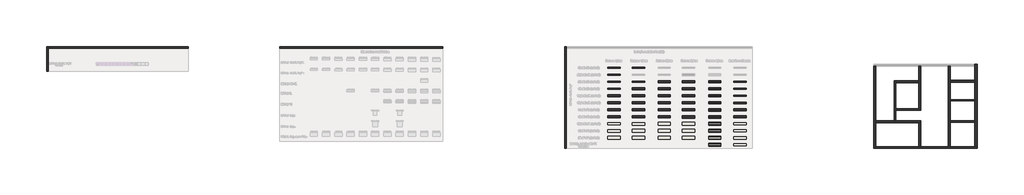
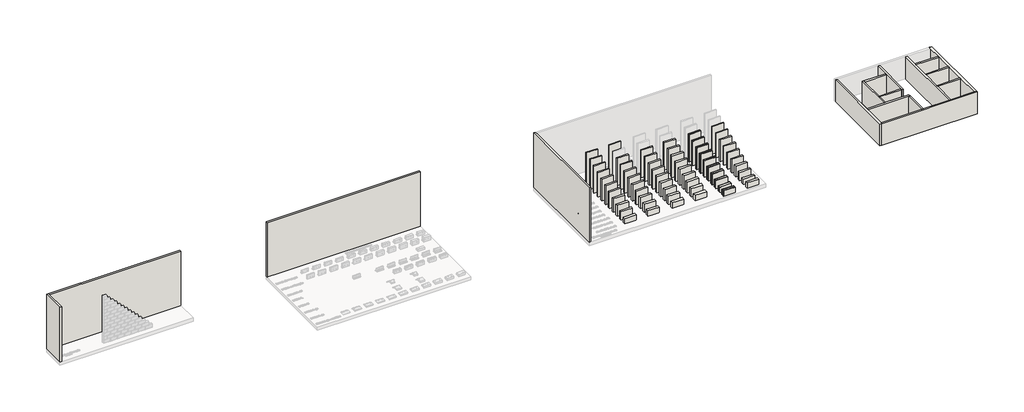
# One storey, part 1 of 26: 76 walls.
"""IFC4 building model written with IfcOpenShell, lengths in millimetres."""

from ifc_helpers import new_model, si_unit, origin, origin_with_axes, place, context, project, spatial, polyline, outline, extrude, faceted_brep, element, save

model = new_model("IFC4")

# Units and contexts
model_context = context("Model", 3, world=origin())
ifc_project = project(units=[si_unit("LENGTHUNIT", "METRE", prefix="MILLI")], contexts=[model_context])

# Site, building, storey
site = spatial("IfcSite", under=ifc_project)
building = spatial("IfcBuilding", under=site)
storey = spatial("IfcBuildingStorey", under=building, Name="Catálogo Celucon", Elevation=0.0)

# Walls
placement = place(None, origin())
element("IfcWall", 1, ObjectType="Módulo de Vedação - 05x30x60cm - Reboco 1,5cm", at=placement, inside=storey, context=model_context, shape_type="SweptSolid", body=[
    extrude(outline(polyline([(13468.4659396, 591.0427599), (12468.4659396, 591.0427599), (12468.4659396, 671.0427599), (13468.4659396, 671.0427599), (13468.4659396, 591.0427599)])), origin_with_axes(), (0.0, 0.0, 1.0), 3000.0),
])
element("IfcWall", 2, ObjectType="Módulo de Vedação - 05x30x60cm - Reboco 1,0cm", at=placement, inside=storey, context=model_context, shape_type="SweptSolid", body=[
    extrude(outline(polyline([(11465.662395, 24.6141885), (10465.662395, 24.6141885), (10465.662395, 94.6141885), (11465.662395, 94.6141885), (11465.662395, 24.6141885)])), origin_with_axes(), (0.0, 0.0, 1.0), 2750.0),
])
element("IfcWall", 3, ObjectType="Módulo de Vedação - 07,5x30x60cm - Reboco 1,0cm", at=placement, inside=storey, context=model_context, shape_type="SweptSolid", body=[
    extrude(outline(polyline([(11465.662395, -559.3143829), (10465.662395, -559.3143829), (10465.662395, -464.3143829), (11465.662395, -464.3143829), (11465.662395, -559.3143829)])), origin_with_axes(), (0.0, 0.0, 1.0), 2500.0),
])
element("IfcWall", 4, ObjectType="Módulo de Vedação - 09x30x60cm - Reboco 3,0cm", at=placement, inside=storey, context=model_context, shape_type="SweptSolid", body=[
    extrude(outline(polyline([(19689.4015231, -586.8143829), (18689.4015231, -586.8143829), (18689.4015231, -556.8143829), (19689.4015231, -556.8143829), (19689.4015231, -586.8143829)])), origin_with_axes(), (0.0, 0.0, 1.0), 2500.0),
    extrude(outline(polyline([(18689.4015231, -436.8143829), (19689.4015231, -436.8143829), (19689.4015231, -466.8143829), (18689.4015231, -466.8143829), (18689.4015231, -436.8143829)])), origin_with_axes(), (0.0, 0.0, 1.0), 2500.0),
    extrude(outline(polyline([(18689.4015231, -556.8143829), (18689.4015231, -466.8143829), (19689.4015231, -466.8143829), (19689.4015231, -556.8143829), (18689.4015231, -556.8143829)])), origin_with_axes(), (0.0, 0.0, 1.0), 2500.0),
])
element("IfcWall", 5, ObjectType="Módulo de Vedação - 09x30x60cm - Reboco 2,5cm", at=placement, inside=storey, context=model_context, shape_type="SweptSolid", body=[
    extrude(outline(polyline([(17549.4015231, -581.8143829), (16549.4015231, -581.8143829), (16549.4015231, -441.8143829), (17549.4015231, -441.8143829), (17549.4015231, -581.8143829)])), origin_with_axes(), (0.0, 0.0, 1.0), 2500.0),
])
element("IfcWall", 6, ObjectType="Módulo de Vedação - 09x30x60cm - Reboco 2,0cm", at=placement, inside=storey, context=model_context, shape_type="SweptSolid", body=[
    extrude(outline(polyline([(15571.203818, -576.8143829), (14571.203818, -576.8143829), (14571.203818, -446.8143829), (15571.203818, -446.8143829), (15571.203818, -576.8143829)])), origin_with_axes(), (0.0, 0.0, 1.0), 2500.0),
])
element("IfcWall", 7, ObjectType="Módulo de Vedação - 09x30x60cm - Reboco 1,5cm", at=placement, inside=storey, context=model_context, shape_type="SweptSolid", body=[
    extrude(outline(polyline([(13468.4659396, -571.8143829), (12468.4659396, -571.8143829), (12468.4659396, -451.8143829), (13468.4659396, -451.8143829), (13468.4659396, -571.8143829)])), origin_with_axes(), (0.0, 0.0, 1.0), 2500.0),
])
element("IfcWall", 8, ObjectType="Módulo de Vedação - 09x30x60cm - Reboco 1,0cm", at=placement, inside=storey, context=model_context, shape_type="SweptSolid", body=[
    extrude(outline(polyline([(11465.662395, -1138.2429544), (10465.662395, -1138.2429544), (10465.662395, -1028.2429544), (11465.662395, -1028.2429544), (11465.662395, -1138.2429544)])), origin_with_axes(), (0.0, 0.0, 1.0), 2250.0),
])
element("IfcWall", 9, ObjectType="Módulo de Vedação - 10x30x60cm - Reboco 3,0cm", at=placement, inside=storey, context=model_context, shape_type="SweptSolid", body=[
    extrude(outline(polyline([(19689.4015231, -1163.2429544), (18689.4015231, -1163.2429544), (18689.4015231, -1133.2429544), (19689.4015231, -1133.2429544), (19689.4015231, -1163.2429544)])), origin_with_axes(), (0.0, 0.0, 1.0), 2250.0),
    extrude(outline(polyline([(18689.4015231, -1003.2429544), (19689.4015231, -1003.2429544), (19689.4015231, -1033.2429544), (18689.4015231, -1033.2429544), (18689.4015231, -1003.2429544)])), origin_with_axes(), (0.0, 0.0, 1.0), 2250.0),
    extrude(outline(polyline([(18689.4015231, -1133.2429544), (18689.4015231, -1033.2429544), (19689.4015231, -1033.2429544), (19689.4015231, -1133.2429544), (18689.4015231, -1133.2429544)])), origin_with_axes(), (0.0, 0.0, 1.0), 2250.0),
])
element("IfcWall", 10, ObjectType="Módulo de Vedação - 10x30x60cm - Reboco 2,5cm", at=placement, inside=storey, context=model_context, shape_type="SweptSolid", body=[
    extrude(outline(polyline([(17549.4015231, -1158.2429544), (16549.4015231, -1158.2429544), (16549.4015231, -1008.2429544), (17549.4015231, -1008.2429544), (17549.4015231, -1158.2429544)])), origin_with_axes(), (0.0, 0.0, 1.0), 2250.0),
])
element("IfcWall", 11, ObjectType="Módulo de Vedação - 10x30x60cm - Reboco 2,0cm", at=placement, inside=storey, context=model_context, shape_type="SweptSolid", body=[
    extrude(outline(polyline([(15571.203818, -1153.2429544), (14571.203818, -1153.2429544), (14571.203818, -1013.2429544), (15571.203818, -1013.2429544), (15571.203818, -1153.2429544)])), origin_with_axes(), (0.0, 0.0, 1.0), 2250.0),
])
element("IfcWall", 12, ObjectType="Módulo de Vedação - 10x30x60cm - Reboco 1,5cm", at=placement, inside=storey, context=model_context, shape_type="SweptSolid", body=[
    extrude(outline(polyline([(13468.4659396, -1148.2429544), (12468.4659396, -1148.2429544), (12468.4659396, -1018.2429544), (13468.4659396, -1018.2429544), (13468.4659396, -1148.2429544)])), origin_with_axes(), (0.0, 0.0, 1.0), 2250.0),
])
element("IfcWall", 13, ObjectType="Módulo de Vedação - 05x30x60cm - Reboco 1,0cm", at=placement, inside=storey, context=model_context, shape_type="SweptSolid", body=[
    extrude(outline(polyline([(11465.662395, 596.0427599), (10465.662395, 596.0427599), (10465.662395, 666.0427599), (11465.662395, 666.0427599), (11465.662395, 596.0427599)])), origin_with_axes(), (0.0, 0.0, 1.0), 3000.0),
])
element("IfcWall", 14, ObjectType="Módulo de Vedação - 11,5x30x60cm - Reboco 3,0cm", at=placement, inside=storey, context=model_context, shape_type="SweptSolid", body=[
    extrude(outline(polyline([(19689.4015231, -1742.1715258), (18689.4015231, -1742.1715258), (18689.4015231, -1712.1715258), (19689.4015231, -1712.1715258), (19689.4015231, -1742.1715258)])), origin_with_axes(), (0.0, 0.0, 1.0), 2000.0),
    extrude(outline(polyline([(18689.4015231, -1567.1715258), (19689.4015231, -1567.1715258), (19689.4015231, -1597.1715258), (18689.4015231, -1597.1715258), (18689.4015231, -1567.1715258)])), origin_with_axes(), (0.0, 0.0, 1.0), 2000.0),
    extrude(outline(polyline([(18689.4015231, -1712.1715258), (18689.4015231, -1597.1715258), (19689.4015231, -1597.1715258), (19689.4015231, -1712.1715258), (18689.4015231, -1712.1715258)])), origin_with_axes(), (0.0, 0.0, 1.0), 2000.0),
])
element("IfcWall", 15, ObjectType="Módulo de Vedação - 11,5x30x60cm - Reboco 2,5cm", at=placement, inside=storey, context=model_context, shape_type="SweptSolid", body=[
    extrude(outline(polyline([(17549.4015231, -1737.1715258), (16549.4015231, -1737.1715258), (16549.4015231, -1572.1715258), (17549.4015231, -1572.1715258), (17549.4015231, -1737.1715258)])), origin_with_axes(), (0.0, 0.0, 1.0), 2000.0),
])
element("IfcWall", 16, ObjectType="Módulo de Vedação - 11,5x30x60cm - Reboco 2,0cm", at=placement, inside=storey, context=model_context, shape_type="SweptSolid", body=[
    extrude(outline(polyline([(15571.203818, -1732.1715258), (14571.203818, -1732.1715258), (14571.203818, -1577.1715258), (15571.203818, -1577.1715258), (15571.203818, -1732.1715258)])), origin_with_axes(), (0.0, 0.0, 1.0), 2000.0),
])
element("IfcWall", 17, ObjectType="Módulo de Vedação - 11,5x30x60cm - Reboco 1,5cm", at=placement, inside=storey, context=model_context, shape_type="SweptSolid", body=[
    extrude(outline(polyline([(13468.4659396, -1727.1715258), (12468.4659396, -1727.1715258), (12468.4659396, -1582.1715258), (13468.4659396, -1582.1715258), (13468.4659396, -1727.1715258)])), origin_with_axes(), (0.0, 0.0, 1.0), 2000.0),
])
element("IfcWall", 18, ObjectType="Módulo de Vedação - 11,5x30x60cm - Reboco 1,0cm", at=placement, inside=storey, context=model_context, shape_type="SweptSolid", body=[
    extrude(outline(polyline([(11465.662395, -1722.1715258), (10465.662395, -1722.1715258), (10465.662395, -1587.1715258), (11465.662395, -1587.1715258), (11465.662395, -1722.1715258)])), origin_with_axes(), (0.0, 0.0, 1.0), 2000.0),
])
element("IfcWall", 19, ObjectType="Módulo de Vedação - 12,5x30x60cm - Reboco 3,0cm", at=placement, inside=storey, context=model_context, shape_type="SweptSolid", body=[
    extrude(outline(polyline([(19689.4015231, -2318.6000972), (18689.4015231, -2318.6000972), (18689.4015231, -2288.6000972), (19689.4015231, -2288.6000972), (19689.4015231, -2318.6000972)])), origin_with_axes(), (0.0, 0.0, 1.0), 1750.0),
    extrude(outline(polyline([(18689.4015231, -2133.6000972), (19689.4015231, -2133.6000972), (19689.4015231, -2163.6000972), (18689.4015231, -2163.6000972), (18689.4015231, -2133.6000972)])), origin_with_axes(), (0.0, 0.0, 1.0), 1750.0),
    extrude(outline(polyline([(18689.4015231, -2288.6000972), (18689.4015231, -2163.6000972), (19689.4015231, -2163.6000972), (19689.4015231, -2288.6000972), (18689.4015231, -2288.6000972)])), origin_with_axes(), (0.0, 0.0, 1.0), 1750.0),
])
element("IfcWall", 20, ObjectType="Módulo de Vedação - 12,5x30x60cm - Reboco 2,5cm", at=placement, inside=storey, context=model_context, shape_type="SweptSolid", body=[
    extrude(outline(polyline([(17549.4015231, -2313.6000972), (16549.4015231, -2313.6000972), (16549.4015231, -2138.6000972), (17549.4015231, -2138.6000972), (17549.4015231, -2313.6000972)])), origin_with_axes(), (0.0, 0.0, 1.0), 1750.0),
])
element("IfcWall", 21, ObjectType="Módulo de Vedação - 12,5x30x60cm - Reboco 2,0cm", at=placement, inside=storey, context=model_context, shape_type="SweptSolid", body=[
    extrude(outline(polyline([(15571.203818, -2308.6000972), (14571.203818, -2308.6000972), (14571.203818, -2143.6000972), (15571.203818, -2143.6000972), (15571.203818, -2308.6000972)])), origin_with_axes(), (0.0, 0.0, 1.0), 1750.0),
])
element("IfcWall", 22, ObjectType="Módulo de Vedação - 12,5x30x60cm - Reboco 1,5cm", at=placement, inside=storey, context=model_context, shape_type="SweptSolid", body=[
    extrude(outline(polyline([(13468.4659396, -2303.6000972), (12468.4659396, -2303.6000972), (12468.4659396, -2148.6000972), (13468.4659396, -2148.6000972), (13468.4659396, -2303.6000972)])), origin_with_axes(), (0.0, 0.0, 1.0), 1750.0),
])
element("IfcWall", 23, ObjectType="Módulo de Vedação - 12,5x30x60cm - Reboco 1,0cm", at=placement, inside=storey, context=model_context, shape_type="SweptSolid", body=[
    extrude(outline(polyline([(11465.662395, -2298.6000972), (10465.662395, -2298.6000972), (10465.662395, -2153.6000972), (11465.662395, -2153.6000972), (11465.662395, -2298.6000972)])), origin_with_axes(), (0.0, 0.0, 1.0), 1750.0),
])
element("IfcWall", 24, ObjectType="Módulo de Vedação - 14x30x60cm - Reboco 3,0cm", at=placement, inside=storey, context=model_context, shape_type="SweptSolid", body=[
    extrude(outline(polyline([(19689.4015231, -2897.5286687), (18689.4015231, -2897.5286687), (18689.4015231, -2867.5286687), (19689.4015231, -2867.5286687), (19689.4015231, -2897.5286687)])), origin_with_axes(), (0.0, 0.0, 1.0), 1500.0),
    extrude(outline(polyline([(18689.4015231, -2697.5286687), (19689.4015231, -2697.5286687), (19689.4015231, -2727.5286687), (18689.4015231, -2727.5286687), (18689.4015231, -2697.5286687)])), origin_with_axes(), (0.0, 0.0, 1.0), 1500.0),
    extrude(outline(polyline([(18689.4015231, -2867.5286687), (18689.4015231, -2727.5286687), (19689.4015231, -2727.5286687), (19689.4015231, -2867.5286687), (18689.4015231, -2867.5286687)])), origin_with_axes(), (0.0, 0.0, 1.0), 1500.0),
])
element("IfcWall", 25, ObjectType="Módulo de Vedação - 14x30x60cm - Reboco 2,5cm", at=placement, inside=storey, context=model_context, shape_type="SweptSolid", body=[
    extrude(outline(polyline([(17549.4015231, -2892.5286687), (16549.4015231, -2892.5286687), (16549.4015231, -2702.5286687), (17549.4015231, -2702.5286687), (17549.4015231, -2892.5286687)])), origin_with_axes(), (0.0, 0.0, 1.0), 1500.0),
])
element("IfcWall", 26, ObjectType="Módulo de Vedação - 14x30x60cm - Reboco 2,0cm", at=placement, inside=storey, context=model_context, shape_type="SweptSolid", body=[
    extrude(outline(polyline([(15571.203818, -2887.5286687), (14571.203818, -2887.5286687), (14571.203818, -2707.5286687), (15571.203818, -2707.5286687), (15571.203818, -2887.5286687)])), origin_with_axes(), (0.0, 0.0, 1.0), 1500.0),
])
element("IfcWall", 27, ObjectType="Módulo de Vedação - 14x30x60cm - Reboco 1,5cm", at=placement, inside=storey, context=model_context, shape_type="SweptSolid", body=[
    extrude(outline(polyline([(13468.4659396, -2882.5286687), (12468.4659396, -2882.5286687), (12468.4659396, -2712.5286687), (13468.4659396, -2712.5286687), (13468.4659396, -2882.5286687)])), origin_with_axes(), (0.0, 0.0, 1.0), 1500.0),
])
element("IfcWall", 28, ObjectType="Módulo de Vedação - 14x30x60cm - Reboco 1,0cm", at=placement, inside=storey, context=model_context, shape_type="SweptSolid", body=[
    extrude(outline(polyline([(11465.662395, -2877.5286687), (10465.662395, -2877.5286687), (10465.662395, -2717.5286687), (11465.662395, -2717.5286687), (11465.662395, -2877.5286687)])), origin_with_axes(), (0.0, 0.0, 1.0), 1500.0),
])
element("IfcWall", 29, ObjectType="Módulo de Vedação - 15x30x60cm - Reboco 3,0cm", at=placement, inside=storey, context=model_context, shape_type="SweptSolid", body=[
    extrude(outline(polyline([(19689.4015231, -3473.9572401), (18689.4015231, -3473.9572401), (18689.4015231, -3443.9572401), (19689.4015231, -3443.9572401), (19689.4015231, -3473.9572401)])), origin_with_axes(), (0.0, 0.0, 1.0), 1250.0),
    extrude(outline(polyline([(18689.4015231, -3263.9572401), (19689.4015231, -3263.9572401), (19689.4015231, -3293.9572401), (18689.4015231, -3293.9572401), (18689.4015231, -3263.9572401)])), origin_with_axes(), (0.0, 0.0, 1.0), 1250.0),
    extrude(outline(polyline([(18689.4015231, -3443.9572401), (18689.4015231, -3293.9572401), (19689.4015231, -3293.9572401), (19689.4015231, -3443.9572401), (18689.4015231, -3443.9572401)])), origin_with_axes(), (0.0, 0.0, 1.0), 1250.0),
])
element("IfcWall", 30, ObjectType="Módulo de Vedação - 15x30x60cm - Reboco 2,5cm", at=placement, inside=storey, context=model_context, shape_type="SweptSolid", body=[
    extrude(outline(polyline([(17549.4015231, -3468.9572401), (16549.4015231, -3468.9572401), (16549.4015231, -3268.9572401), (17549.4015231, -3268.9572401), (17549.4015231, -3468.9572401)])), origin_with_axes(), (0.0, 0.0, 1.0), 1250.0),
])
element("IfcWall", 31, ObjectType="Módulo de Vedação - 15x30x60cm - Reboco 2,0cm", at=placement, inside=storey, context=model_context, shape_type="SweptSolid", body=[
    extrude(outline(polyline([(15571.203818, -3463.9572401), (14571.203818, -3463.9572401), (14571.203818, -3273.9572401), (15571.203818, -3273.9572401), (15571.203818, -3463.9572401)])), origin_with_axes(), (0.0, 0.0, 1.0), 1250.0),
])
element("IfcWall", 32, ObjectType="Módulo de Vedação - 15x30x60cm - Reboco 1,5cm", at=placement, inside=storey, context=model_context, shape_type="SweptSolid", body=[
    extrude(outline(polyline([(13468.4659396, -3458.9572401), (12468.4659396, -3458.9572401), (12468.4659396, -3278.9572401), (13468.4659396, -3278.9572401), (13468.4659396, -3458.9572401)])), origin_with_axes(), (0.0, 0.0, 1.0), 1250.0),
])
element("IfcWall", 33, ObjectType="Módulo de Vedação - 15x30x60cm - Reboco 1,0cm", at=placement, inside=storey, context=model_context, shape_type="SweptSolid", body=[
    extrude(outline(polyline([(11465.662395, -3453.9572401), (10465.662395, -3453.9572401), (10465.662395, -3283.9572401), (11465.662395, -3283.9572401), (11465.662395, -3453.9572401)])), origin_with_axes(), (0.0, 0.0, 1.0), 1250.0),
])
element("IfcWall", 34, ObjectType="Módulo de Vedação - 17,5x30x60cm - Reboco 3,0cm", at=placement, inside=storey, context=model_context, shape_type="SweptSolid", body=[
    extrude(outline(polyline([(19689.4015231, -4057.8858115), (18689.4015231, -4057.8858115), (18689.4015231, -4027.8858115), (19689.4015231, -4027.8858115), (19689.4015231, -4057.8858115)])), origin_with_axes(), (0.0, 0.0, 1.0), 1000.0),
    extrude(outline(polyline([(18689.4015231, -3822.8858115), (19689.4015231, -3822.8858115), (19689.4015231, -3852.8858115), (18689.4015231, -3852.8858115), (18689.4015231, -3822.8858115)])), origin_with_axes(), (0.0, 0.0, 1.0), 1000.0),
    extrude(outline(polyline([(18689.4015231, -4027.8858115), (18689.4015231, -3852.8858115), (19689.4015231, -3852.8858115), (19689.4015231, -4027.8858115), (18689.4015231, -4027.8858115)])), origin_with_axes(), (0.0, 0.0, 1.0), 1000.0),
])
element("IfcWall", 35, ObjectType="Módulo de Vedação - 17,5x30x60cm - Reboco 2,5cm", at=placement, inside=storey, context=model_context, shape_type="SweptSolid", body=[
    extrude(outline(polyline([(17549.4015231, -4052.8858115), (16549.4015231, -4052.8858115), (16549.4015231, -3827.8858115), (17549.4015231, -3827.8858115), (17549.4015231, -4052.8858115)])), origin_with_axes(), (0.0, 0.0, 1.0), 1000.0),
])
element("IfcWall", 36, ObjectType="Módulo de Vedação - 17,5x30x60cm - Reboco 2,0cm", at=placement, inside=storey, context=model_context, shape_type="SweptSolid", body=[
    extrude(outline(polyline([(15571.203818, -4047.8858115), (14571.203818, -4047.8858115), (14571.203818, -3832.8858115), (15571.203818, -3832.8858115), (15571.203818, -4047.8858115)])), origin_with_axes(), (0.0, 0.0, 1.0), 1000.0),
])
element("IfcWall", 37, ObjectType="Módulo de Vedação - 17,5x30x60cm - Reboco 1,5cm", at=placement, inside=storey, context=model_context, shape_type="SweptSolid", body=[
    extrude(outline(polyline([(13468.4659396, -4042.8858115), (12468.4659396, -4042.8858115), (12468.4659396, -3837.8858115), (13468.4659396, -3837.8858115), (13468.4659396, -4042.8858115)])), origin_with_axes(), (0.0, 0.0, 1.0), 1000.0),
])
element("IfcWall", 38, ObjectType="Módulo de Vedação - 17,5x30x60cm - Reboco 1,0cm", at=placement, inside=storey, context=model_context, shape_type="SweptSolid", body=[
    extrude(outline(polyline([(11465.662395, -4037.8858115), (10465.662395, -4037.8858115), (10465.662395, -3842.8858115), (11465.662395, -3842.8858115), (11465.662395, -4037.8858115)])), origin_with_axes(), (0.0, 0.0, 1.0), 1000.0),
])
element("IfcWall", 39, ObjectType="Módulo de Vedação - 19x30x60cm - Reboco 3,0cm", at=placement, inside=storey, context=model_context, shape_type="SweptSolid", body=[
    extrude(outline(polyline([(19689.4015231, -4636.8143829), (18689.4015231, -4636.8143829), (18689.4015231, -4606.8143829), (19689.4015231, -4606.8143829), (19689.4015231, -4636.8143829)])), origin_with_axes(), (0.0, 0.0, 1.0), 750.0),
    extrude(outline(polyline([(18689.4015231, -4386.8143829), (19689.4015231, -4386.8143829), (19689.4015231, -4416.8143829), (18689.4015231, -4416.8143829), (18689.4015231, -4386.8143829)])), origin_with_axes(), (0.0, 0.0, 1.0), 750.0),
    extrude(outline(polyline([(18689.4015231, -4606.8143829), (18689.4015231, -4416.8143829), (19689.4015231, -4416.8143829), (19689.4015231, -4606.8143829), (18689.4015231, -4606.8143829)])), origin_with_axes(), (0.0, 0.0, 1.0), 750.0),
])
element("IfcWall", 40, ObjectType="Módulo de Vedação - 19x30x60cm - Reboco 2,5cm", at=placement, inside=storey, context=model_context, shape_type="SweptSolid", body=[
    extrude(outline(polyline([(17549.4015231, -4631.8143829), (16549.4015231, -4631.8143829), (16549.4015231, -4391.8143829), (17549.4015231, -4391.8143829), (17549.4015231, -4631.8143829)])), origin_with_axes(), (0.0, 0.0, 1.0), 750.0),
])
element("IfcWall", 41, ObjectType="Módulo de Vedação - 19x30x60cm - Reboco 2,0cm", at=placement, inside=storey, context=model_context, shape_type="SweptSolid", body=[
    extrude(outline(polyline([(15571.203818, -4626.8143829), (14571.203818, -4626.8143829), (14571.203818, -4396.8143829), (15571.203818, -4396.8143829), (15571.203818, -4626.8143829)])), origin_with_axes(), (0.0, 0.0, 1.0), 750.0),
])
element("IfcWall", 42, ObjectType="Módulo de Vedação - 19x30x60cm - Reboco 1,5cm", at=placement, inside=storey, context=model_context, shape_type="SweptSolid", body=[
    extrude(outline(polyline([(13468.4659396, -4621.8143829), (12468.4659396, -4621.8143829), (12468.4659396, -4401.8143829), (13468.4659396, -4401.8143829), (13468.4659396, -4621.8143829)])), origin_with_axes(), (0.0, 0.0, 1.0), 750.0),
])
element("IfcWall", 43, ObjectType="Módulo de Vedação - 19x30x60cm - Reboco 1,0cm", at=placement, inside=storey, context=model_context, shape_type="SweptSolid", body=[
    extrude(outline(polyline([(11465.662395, -4616.8143829), (10465.662395, -4616.8143829), (10465.662395, -4406.8143829), (11465.662395, -4406.8143829), (11465.662395, -4616.8143829)])), origin_with_axes(), (0.0, 0.0, 1.0), 750.0),
])
element("IfcWall", 44, ObjectType="Módulo de Vedação - 20x30x60cm - Reboco 3,0cm", at=placement, inside=storey, context=model_context, shape_type="SweptSolid", body=[
    extrude(outline(polyline([(19689.4015231, -5213.2429544), (18689.4015231, -5213.2429544), (18689.4015231, -5183.2429544), (19689.4015231, -5183.2429544), (19689.4015231, -5213.2429544)])), origin_with_axes(), (0.0, 0.0, 1.0), 500.0),
    extrude(outline(polyline([(18689.4015231, -4953.2429544), (19689.4015231, -4953.2429544), (19689.4015231, -4983.2429544), (18689.4015231, -4983.2429544), (18689.4015231, -4953.2429544)])), origin_with_axes(), (0.0, 0.0, 1.0), 500.0),
    extrude(outline(polyline([(18689.4015231, -5183.2429544), (18689.4015231, -4983.2429544), (19689.4015231, -4983.2429544), (19689.4015231, -5183.2429544), (18689.4015231, -5183.2429544)])), origin_with_axes(), (0.0, 0.0, 1.0), 500.0),
])
element("IfcWall", 45, ObjectType="Módulo de Vedação - 20x30x60cm - Reboco 2,5cm", at=placement, inside=storey, context=model_context, shape_type="SweptSolid", body=[
    extrude(outline(polyline([(17549.4015231, -5208.2429544), (16549.4015231, -5208.2429544), (16549.4015231, -4958.2429544), (17549.4015231, -4958.2429544), (17549.4015231, -5208.2429544)])), origin_with_axes(), (0.0, 0.0, 1.0), 500.0),
])
element("IfcWall", 46, ObjectType="Módulo de Vedação - 20x30x60cm - Reboco 2,0cm", at=placement, inside=storey, context=model_context, shape_type="SweptSolid", body=[
    extrude(outline(polyline([(15571.203818, -5203.2429544), (14571.203818, -5203.2429544), (14571.203818, -4963.2429544), (15571.203818, -4963.2429544), (15571.203818, -5203.2429544)])), origin_with_axes(), (0.0, 0.0, 1.0), 500.0),
])
element("IfcWall", 47, ObjectType="Módulo de Vedação - 20x30x60cm - Reboco 1,5cm", at=placement, inside=storey, context=model_context, shape_type="SweptSolid", body=[
    extrude(outline(polyline([(13468.4659396, -5198.2429544), (12468.4659396, -5198.2429544), (12468.4659396, -4968.2429544), (13468.4659396, -4968.2429544), (13468.4659396, -5198.2429544)])), origin_with_axes(), (0.0, 0.0, 1.0), 500.0),
])
element("IfcWall", 48, ObjectType="Módulo de Vedação - 20x30x60cm - Reboco 1,0cm", at=placement, inside=storey, context=model_context, shape_type="SweptSolid", body=[
    extrude(outline(polyline([(11465.662395, -5193.2429544), (10465.662395, -5193.2429544), (10465.662395, -4973.2429544), (11465.662395, -4973.2429544), (11465.662395, -5193.2429544)])), origin_with_axes(), (0.0, 0.0, 1.0), 500.0),
])
element("IfcWall", 49, ObjectType="Parede Genérica 15cm", at=placement, inside=storey, context=model_context, shape_type="Brep", body=[
    faceted_brep([(7092.1396244, -5928.2474407, 0.0), (7092.1396244, 2207.466845, 0.0), (7092.1396244, 2357.466845, 0.0), (7092.1396244, 2357.466845, 5000.0), (7092.1396244, 2207.466845, 5000.0), (7092.1396244, -5928.2474407, 5000.0), (6942.1396244, -5928.2474407, 0.0), (6942.1396244, -5928.2474407, 5000.0), (6942.1396244, 2357.466845, 5000.0), (6942.1396244, 2357.466845, 0.0)], [[[0, 1, 2, 3, 4, 5]], [[6, 7, 8, 9]], [[2, 1, 0, 6, 9]], [[5, 4, 3, 8, 7]], [[0, 5, 7, 6]], [[3, 2, 9, 8]]]),
])
element("IfcWall", 50, ObjectType="Parede Genérica 15cm", at=placement, inside=storey, context=model_context, shape_type="SweptSolid", body=[
    extrude(outline(polyline([(-2997.8603756, 2207.466845), (-16257.8603756, 2207.466845), (-16257.8603756, 2357.466845), (-2997.8603756, 2357.466845), (-2997.8603756, 2207.466845)])), origin_with_axes(), (0.0, 0.0, 1.0), 5000.0),
])
element("IfcWall", 51, ObjectType="Parede Genérica 15cm", at=placement, inside=storey, context=model_context, shape_type="Brep", body=[
    faceted_brep([(-35133.9150984, 357.466845, 0.0), (-35133.9150984, 2207.466845, 0.0), (-35133.9150984, 2357.466845, 0.0), (-35133.9150984, 2357.466845, 5000.0), (-35133.9150984, 2207.466845, 5000.0), (-35133.9150984, 357.466845, 5000.0), (-35283.9150984, 357.466845, 0.0), (-35283.9150984, 357.466845, 5000.0), (-35283.9150984, 2357.466845, 5000.0), (-35283.9150984, 2357.466845, 0.0)], [[[0, 1, 2, 3, 4, 5]], [[6, 7, 8, 9]], [[2, 1, 0, 6, 9]], [[5, 4, 3, 8, 7]], [[0, 5, 7, 6]], [[3, 2, 9, 8]]]),
])
element("IfcWall", 52, ObjectType="Parede Genérica 15cm", at=placement, inside=storey, context=model_context, shape_type="SweptSolid", body=[
    extrude(outline(polyline([(-23723.9150984, 2207.466845), (-35133.9150984, 2207.466845), (-35133.9150984, 2357.466845), (-23723.9150984, 2357.466845), (-23723.9150984, 2207.466845)])), origin_with_axes(), (0.0, 0.0, 1.0), 5000.0),
])
element("IfcWall", 53, ObjectType="Módulo de Vedação - 09x30x60cm - Sem Reboco", at=placement, inside=storey, context=model_context, shape_type="SweptSolid", body=[
    extrude(outline(polyline([(21739.4015231, -556.8143829), (20739.4015231, -556.8143829), (20739.4015231, -466.8143829), (21739.4015231, -466.8143829), (21739.4015231, -556.8143829)])), origin_with_axes(), (0.0, 0.0, 1.0), 2500.0),
])
element("IfcWall", 54, ObjectType="Módulo de Vedação - 10x30x60cm - Sem Reboco", at=placement, inside=storey, context=model_context, shape_type="SweptSolid", body=[
    extrude(outline(polyline([(21739.4015231, -1133.2429544), (20739.4015231, -1133.2429544), (20739.4015231, -1033.2429544), (21739.4015231, -1033.2429544), (21739.4015231, -1133.2429544)])), origin_with_axes(), (0.0, 0.0, 1.0), 2250.0),
])
element("IfcWall", 55, ObjectType="Módulo de Vedação - 11,5x30x60cm - Sem Reboco", at=placement, inside=storey, context=model_context, shape_type="SweptSolid", body=[
    extrude(outline(polyline([(21739.4015231, -1712.1715258), (20739.4015231, -1712.1715258), (20739.4015231, -1597.1715258), (21739.4015231, -1597.1715258), (21739.4015231, -1712.1715258)])), origin_with_axes(), (0.0, 0.0, 1.0), 2000.0),
])
element("IfcWall", 56, ObjectType="Módulo de Vedação - 12,5x30x60cm - Sem Reboco", at=placement, inside=storey, context=model_context, shape_type="SweptSolid", body=[
    extrude(outline(polyline([(21739.4015231, -2288.6000972), (20739.4015231, -2288.6000972), (20739.4015231, -2163.6000972), (21739.4015231, -2163.6000972), (21739.4015231, -2288.6000972)])), origin_with_axes(), (0.0, 0.0, 1.0), 1750.0),
])
element("IfcWall", 57, ObjectType="Módulo de Vedação - 14x30x60cm - Sem Reboco", at=placement, inside=storey, context=model_context, shape_type="SweptSolid", body=[
    extrude(outline(polyline([(21739.4015231, -2867.5286687), (20739.4015231, -2867.5286687), (20739.4015231, -2727.5286687), (21739.4015231, -2727.5286687), (21739.4015231, -2867.5286687)])), origin_with_axes(), (0.0, 0.0, 1.0), 1500.0),
])
element("IfcWall", 58, ObjectType="Módulo de Vedação - 15x30x60cm - Sem Reboco", at=placement, inside=storey, context=model_context, shape_type="SweptSolid", body=[
    extrude(outline(polyline([(21739.4015231, -3443.9572401), (20739.4015231, -3443.9572401), (20739.4015231, -3293.9572401), (21739.4015231, -3293.9572401), (21739.4015231, -3443.9572401)])), origin_with_axes(), (0.0, 0.0, 1.0), 1250.0),
])
element("IfcWall", 59, ObjectType="Módulo de Vedação - 17,5x30x60cm - Sem Reboco", at=placement, inside=storey, context=model_context, shape_type="SweptSolid", body=[
    extrude(outline(polyline([(21739.4015231, -4027.8858115), (20739.4015231, -4027.8858115), (20739.4015231, -3852.8858115), (21739.4015231, -3852.8858115), (21739.4015231, -4027.8858115)])), origin_with_axes(), (0.0, 0.0, 1.0), 1000.0),
])
element("IfcWall", 60, ObjectType="Módulo de Vedação - 19x30x60cm - Sem Reboco", at=placement, inside=storey, context=model_context, shape_type="SweptSolid", body=[
    extrude(outline(polyline([(21739.4015231, -4606.8143829), (20739.4015231, -4606.8143829), (20739.4015231, -4416.8143829), (21739.4015231, -4416.8143829), (21739.4015231, -4606.8143829)])), origin_with_axes(), (0.0, 0.0, 1.0), 750.0),
])
element("IfcWall", 61, ObjectType="Módulo de Vedação - 20x30x60cm - Sem Reboco", at=placement, inside=storey, context=model_context, shape_type="SweptSolid", body=[
    extrude(outline(polyline([(21739.4015231, -5183.2429544), (20739.4015231, -5183.2429544), (20739.4015231, -4983.2429544), (21739.4015231, -4983.2429544), (21739.4015231, -5183.2429544)])), origin_with_axes(), (0.0, 0.0, 1.0), 500.0),
])
element("IfcWall", 62, ObjectType="Módulo Acústico 51 dB - 19x20x60cm - Reboco 3,0cm", at=placement, inside=storey, context=model_context, shape_type="SweptSolid", body=[
    extrude(outline(polyline([(19689.4015231, -5779.6715258), (18689.4015231, -5779.6715258), (18689.4015231, -5749.6715258), (19689.4015231, -5749.6715258), (19689.4015231, -5779.6715258)])), origin_with_axes(), (0.0, 0.0, 1.0), 500.0),
    extrude(outline(polyline([(18689.4015231, -5529.6715258), (19689.4015231, -5529.6715258), (19689.4015231, -5559.6715258), (18689.4015231, -5559.6715258), (18689.4015231, -5529.6715258)])), origin_with_axes(), (0.0, 0.0, 1.0), 500.0),
    extrude(outline(polyline([(18689.4015231, -5749.6715258), (18689.4015231, -5559.6715258), (19689.4015231, -5559.6715258), (19689.4015231, -5749.6715258), (18689.4015231, -5749.6715258)])), origin_with_axes(), (0.0, 0.0, 1.0), 500.0),
])
element("IfcWall", 63, ObjectType="Módulo Acústico 51 dB - 19x20x60cm - Sem Reboco", at=placement, inside=storey, context=model_context, shape_type="SweptSolid", body=[
    extrude(outline(polyline([(21739.4015231, -5749.6715258), (20739.4015231, -5749.6715258), (20739.4015231, -5559.6715258), (21739.4015231, -5559.6715258), (21739.4015231, -5749.6715258)])), origin_with_axes(), (0.0, 0.0, 1.0), 500.0),
])
element("IfcWall", 64, ObjectType="Módulo de Vedação - 10x30x60cm - Reboco 3,0cm", at=placement, inside=storey, context=model_context, shape_type="Brep", body=[
    faceted_brep([(32316.3051657, -5928.2474407, 0.0), (32316.3051657, -5808.2474407, 0.0), (32316.3051657, -3868.2474407, 0.0), (32316.3051657, -3678.2474407, 0.0), (32316.3051657, 741.3954164, 0.0), (32316.3051657, 741.3954164, 2000.0), (32316.3051657, -3678.2474407, 2000.0), (32316.3051657, -3868.2474407, 2000.0), (32316.3051657, -5808.2474407, 2000.0), (32316.3051657, -5928.2474407, 2000.0), (32156.3051657, -5928.2474407, 0.0), (32156.3051657, -5928.2474407, 2000.0), (32156.3051657, 741.3954164, 2000.0), (32156.3051657, 741.3954164, 0.0)], [[[0, 1, 2, 3, 4, 5, 6, 7, 8, 9]], [[10, 11, 12, 13]], [[4, 3, 2, 1, 0, 10, 13]], [[9, 8, 7, 6, 5, 12, 11]], [[0, 9, 11, 10]], [[5, 4, 13, 12]]]),
])
element("IfcWall", 65, ObjectType="Módulo de Vedação - 09x30x60cm - Reboco 1,5cm", at=placement, inside=storey, context=model_context, shape_type="Brep", body=[
    faceted_brep([(40601.8195216, -5808.2474407, 0.0), (40381.8195216, -5808.2474407, 0.0), (38374.0623437, -5808.2474407, 0.0), (38209.0623437, -5808.2474407, 0.0), (35966.3051657, -5808.2474407, 0.0), (35836.3051657, -5808.2474407, 0.0), (32316.3051657, -5808.2474407, 0.0), (32316.3051657, -5808.2474407, 2000.0), (35836.3051657, -5808.2474407, 2000.0), (35966.3051657, -5808.2474407, 2000.0), (38209.0623437, -5808.2474407, 2000.0), (38374.0623437, -5808.2474407, 2000.0), (40381.8195216, -5808.2474407, 2000.0), (40601.8195216, -5808.2474407, 2000.0), (40601.8195216, -5928.2474407, 0.0), (40601.8195216, -5928.2474407, 2000.0), (32316.3051657, -5928.2474407, 2000.0), (32316.3051657, -5928.2474407, 0.0)], [[[0, 1, 2, 3, 4, 5, 6, 7, 8, 9, 10, 11, 12, 13]], [[14, 15, 16, 17]], [[6, 5, 4, 3, 2, 1, 0, 14, 17]], [[13, 12, 11, 10, 9, 8, 7, 16, 15]], [[0, 13, 15, 14]], [[7, 6, 17, 16]]]),
])
element("IfcWall", 66, ObjectType="Módulo de Vedação - 20x30x60cm - Reboco 1,0cm", at=placement, inside=storey, context=model_context, shape_type="Brep", body=[
    faceted_brep([(40381.8195216, 916.3954164, 0.0), (40381.8195216, 741.3954164, 0.0), (40381.8195216, -391.1045836, 0.0), (40381.8195216, -551.1045836, 0.0), (40381.8195216, -1959.6760122, 0.0), (40381.8195216, -2069.6760122, 0.0), (40381.8195216, -3683.2474407, 0.0), (40381.8195216, -3798.2474407, 0.0), (40381.8195216, -5808.2474407, 0.0), (40381.8195216, -5808.2474407, 2000.0), (40381.8195216, -3798.2474407, 2000.0), (40381.8195216, -3683.2474407, 2000.0), (40381.8195216, -2069.6760122, 2000.0), (40381.8195216, -1959.6760122, 2000.0), (40381.8195216, -551.1045836, 2000.0), (40381.8195216, -391.1045836, 2000.0), (40381.8195216, 741.3954164, 2000.0), (40381.8195216, 916.3954164, 2000.0), (40601.8195216, 916.3954164, 0.0), (40601.8195216, 916.3954164, 2000.0), (40601.8195216, -5808.2474407, 2000.0), (40601.8195216, -5808.2474407, 0.0)], [[[0, 1, 2, 3, 4, 5, 6, 7, 8, 9, 10, 11, 12, 13, 14, 15, 16, 17]], [[18, 19, 20, 21]], [[8, 7, 6, 5, 4, 3, 2, 1, 0, 18, 21]], [[17, 16, 15, 14, 13, 12, 11, 10, 9, 20, 19]], [[0, 17, 19, 18]], [[9, 8, 21, 20]]]),
])
element("IfcWall", 67, ObjectType="Módulo de Vedação - 09x30x60cm - Reboco 1,0cm", at=placement, inside=storey, context=model_context, shape_type="Brep", body=[
    faceted_brep([(33926.3051657, -3678.2474407, 0.0), (33926.3051657, -2824.6760122, 0.0), (33926.3051657, -2714.6760122, 0.0), (33926.3051657, -591.1045836, 0.0), (33926.3051657, -421.1045836, 0.0), (33926.3051657, -421.1045836, 2000.0), (33926.3051657, -591.1045836, 2000.0), (33926.3051657, -2714.6760122, 2000.0), (33926.3051657, -2824.6760122, 2000.0), (33926.3051657, -3678.2474407, 2000.0), (33816.3051657, -3678.2474407, 0.0), (33816.3051657, -3678.2474407, 2000.0), (33816.3051657, -421.1045836, 2000.0), (33816.3051657, -421.1045836, 0.0)], [[[0, 1, 2, 3, 4, 5, 6, 7, 8, 9]], [[10, 11, 12, 13]], [[4, 3, 2, 1, 0, 10, 13]], [[9, 8, 7, 6, 5, 12, 11]], [[5, 4, 13, 12]], [[0, 9, 11, 10]]]),
])
element("IfcWall", 68, ObjectType="Módulo de Vedação - 10x30x60cm - Reboco 2,5cm", at=placement, inside=storey, context=model_context, shape_type="Brep", body=[
    faceted_brep([(35816.3051657, 741.3954164, 0.0), (35816.3051657, -421.1045836, 0.0), (35816.3051657, -591.1045836, 0.0), (35816.3051657, -2714.6760122, 0.0), (35816.3051657, -2824.6760122, 0.0), (35816.3051657, -2824.6760122, 2000.0), (35816.3051657, -2714.6760122, 2000.0), (35816.3051657, -591.1045836, 2000.0), (35816.3051657, -421.1045836, 2000.0), (35816.3051657, 741.3954164, 2000.0), (35966.3051657, 741.3954164, 0.0), (35966.3051657, 741.3954164, 2000.0), (35966.3051657, -2824.6760122, 2000.0), (35966.3051657, -2824.6760122, 0.0)], [[[0, 1, 2, 3, 4, 5, 6, 7, 8, 9]], [[10, 11, 12, 13]], [[4, 3, 2, 1, 0, 10, 13]], [[9, 8, 7, 6, 5, 12, 11]], [[0, 9, 11, 10]], [[5, 4, 13, 12]]]),
])
element("IfcWall", 69, ObjectType="Módulo de Vedação - 12,5x30x60cm - Reboco 2,0cm", at=placement, inside=storey, context=model_context, shape_type="Brep", body=[
    faceted_brep([(38374.0623437, -5808.2474407, 0.0), (38374.0623437, -3798.2474407, 0.0), (38374.0623437, -3683.2474407, 0.0), (38374.0623437, -2069.6760122, 0.0), (38374.0623437, -1959.6760122, 0.0), (38374.0623437, -551.1045836, 0.0), (38374.0623437, -391.1045836, 0.0), (38374.0623437, 741.3954164, 0.0), (38374.0623437, 741.3954164, 2000.0), (38374.0623437, -391.1045836, 2000.0), (38374.0623437, -551.1045836, 2000.0), (38374.0623437, -1959.6760122, 2000.0), (38374.0623437, -2069.6760122, 2000.0), (38374.0623437, -3683.2474407, 2000.0), (38374.0623437, -3798.2474407, 2000.0), (38374.0623437, -5808.2474407, 2000.0), (38209.0623437, -5808.2474407, 0.0), (38209.0623437, -5808.2474407, 2000.0), (38209.0623437, 741.3954164, 2000.0), (38209.0623437, 741.3954164, 0.0)], [[[0, 1, 2, 3, 4, 5, 6, 7, 8, 9, 10, 11, 12, 13, 14, 15]], [[16, 17, 18, 19]], [[7, 6, 5, 4, 3, 2, 1, 0, 16, 19]], [[15, 14, 13, 12, 11, 10, 9, 8, 18, 17]], [[8, 7, 19, 18]], [[0, 15, 17, 16]]]),
])
element("IfcWall", 70, ObjectType="Módulo de Vedação - 15x30x60cm - Reboco 2,0cm", at=placement, inside=storey, context=model_context, shape_type="Brep", body=[
    faceted_brep([(32316.3051657, -3868.2474407, 0.0), (35836.3051657, -3868.2474407, 0.0), (35966.3051657, -3868.2474407, 0.0), (35966.3051657, -3868.2474407, 2000.0), (35836.3051657, -3868.2474407, 2000.0), (32316.3051657, -3868.2474407, 2000.0), (32316.3051657, -3678.2474407, 0.0), (32316.3051657, -3678.2474407, 2000.0), (33816.3051657, -3678.2474407, 2000.0), (33926.3051657, -3678.2474407, 2000.0), (35966.3051657, -3678.2474407, 2000.0), (35966.3051657, -3678.2474407, 0.0), (33926.3051657, -3678.2474407, 0.0), (33816.3051657, -3678.2474407, 0.0)], [[[0, 1, 2, 3, 4, 5]], [[6, 7, 8, 9, 10, 11, 12, 13]], [[2, 1, 0, 6, 13, 12, 11]], [[5, 4, 3, 10, 9, 8, 7]], [[0, 5, 7, 6]], [[3, 2, 11, 10]]]),
])
element("IfcWall", 71, ObjectType="Módulo de Vedação - 15x30x60cm - Reboco 1,0cm", at=placement, inside=storey, context=model_context, shape_type="SweptSolid", body=[
    extrude(outline(polyline([(35816.3051657, -591.1045836), (33926.3051657, -591.1045836), (33926.3051657, -421.1045836), (35816.3051657, -421.1045836), (35816.3051657, -591.1045836)])), origin_with_axes(), (0.0, 0.0, 1.0), 2000.0),
])
element("IfcWall", 72, ObjectType="Módulo de Vedação - 05x30x60cm - Reboco 3,0cm", at=placement, inside=storey, context=model_context, shape_type="SweptSolid", body=[
    extrude(outline(polyline([(38374.0623437, -1959.6760122), (40381.8195216, -1959.6760122), (40381.8195216, -2069.6760122), (38374.0623437, -2069.6760122), (38374.0623437, -1959.6760122)])), origin_with_axes(), (0.0, 0.0, 1.0), 2000.0),
])
element("IfcWall", 73, ObjectType="Módulo de Vedação - 09x30x60cm - Reboco 1,0cm", at=placement, inside=storey, context=model_context, shape_type="SweptSolid", body=[
    extrude(outline(polyline([(33926.3051657, -2714.6760122), (35816.3051657, -2714.6760122), (35816.3051657, -2824.6760122), (33926.3051657, -2824.6760122), (33926.3051657, -2714.6760122)])), origin_with_axes(), (0.0, 0.0, 1.0), 2000.0),
])
element("IfcWall", 74, ObjectType="Módulo de Vedação - 10x30x60cm - Reboco 3,0cm", at=placement, inside=storey, context=model_context, shape_type="SweptSolid", body=[
    extrude(outline(polyline([(40381.8195216, -551.1045836), (38374.0623437, -551.1045836), (38374.0623437, -391.1045836), (40381.8195216, -391.1045836), (40381.8195216, -551.1045836)])), origin_with_axes(), (0.0, 0.0, 1.0), 2000.0),
])
element("IfcWall", 75, ObjectType="Módulo de Vedação - 07,5x30x60cm - Reboco 2,0cm", at=placement, inside=storey, context=model_context, shape_type="SweptSolid", body=[
    extrude(outline(polyline([(40381.8195216, -3798.2474407), (38374.0623437, -3798.2474407), (38374.0623437, -3683.2474407), (40381.8195216, -3683.2474407), (40381.8195216, -3798.2474407)])), origin_with_axes(), (0.0, 0.0, 1.0), 2000.0),
])
element("IfcWall", 76, ObjectType="Módulo de Vedação - 09x30x60cm - Reboco 2,0cm", at=placement, inside=storey, context=model_context, shape_type="SweptSolid", body=[
    extrude(outline(polyline([(35836.3051657, -5808.2474407), (35836.3051657, -3868.2474407), (35966.3051657, -3868.2474407), (35966.3051657, -5808.2474407), (35836.3051657, -5808.2474407)])), origin_with_axes(), (0.0, 0.0, 1.0), 2000.0),
])

save(model, "model.ifc")
